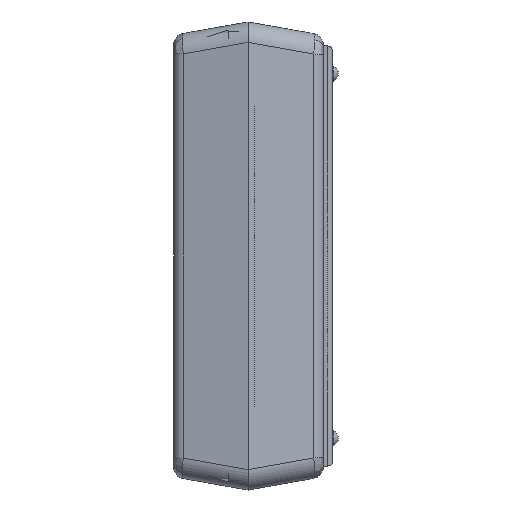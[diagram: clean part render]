
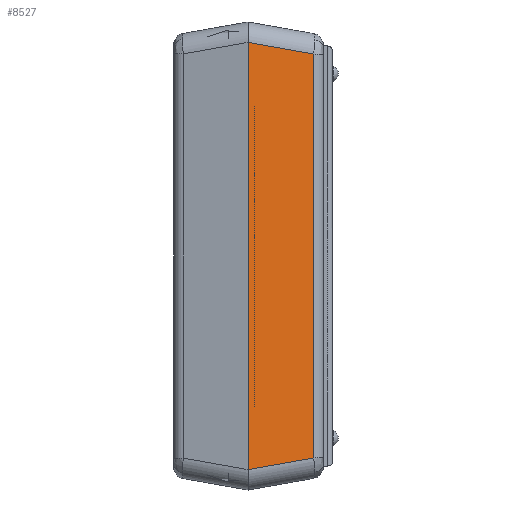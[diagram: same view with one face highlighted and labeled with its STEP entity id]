
A CAD part, left-side view. The second image highlights one B-rep face of the part: STEP entity #8527.
In plain terms, the highlighted planar face has unit normal (-0.985, -0.174, 0).
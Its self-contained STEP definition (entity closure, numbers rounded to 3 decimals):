
#132 = CARTESIAN_POINT ( 'NONE',  ( -95.43, 0.736, 46.398 ) ) ;
#248 = CARTESIAN_POINT ( 'NONE',  ( -95.3, 0., -46.268 ) ) ;
#1074 = CARTESIAN_POINT ( 'NONE',  ( -92.79, -14.234, -43.759 ) ) ;
#1853 = EDGE_LOOP ( 'NONE', ( #17081, #9218, #17680, #17743 ) ) ;
#3348 = EDGE_CURVE ( 'NONE', #15741, #21416, #19477, .T. ) ;
#3543 = FACE_OUTER_BOUND ( 'NONE', #1853, .T. ) ;
#5240 = PLANE ( 'NONE',  #9140 ) ;
#5308 = DIRECTION ( 'NONE',  ( 0.174, -0.985, 0. ) ) ;
#5566 = CARTESIAN_POINT ( 'NONE',  ( -92.462, -16.097, -43.43 ) ) ;
#6515 = VECTOR ( 'NONE', #10489, 1000. ) ;
#7060 = LINE ( 'NONE', #132, #6515 ) ;
#7211 = VECTOR ( 'NONE', #14164, 1000. ) ;
#8527 = ADVANCED_FACE ( 'NONE', ( #3543 ), #5240, .T. ) ;
#8567 = EDGE_CURVE ( 'NONE', #14717, #21416, #7060, .T. ) ;
#9140 = AXIS2_PLACEMENT_3D ( 'NONE', #12162, #15626, #5308 ) ;
#9143 = VECTOR ( 'NONE', #18006, 1000. ) ;
#9218 = ORIENTED_EDGE ( 'NONE', *, *, #11018, .T. ) ;
#10489 = DIRECTION ( 'NONE',  ( -0.171, 0.97, 0.171 ) ) ;
#11018 = EDGE_CURVE ( 'NONE', #15741, #19772, #16384, .T. ) ;
#12162 = CARTESIAN_POINT ( 'NONE',  ( -95.3, 0., 50.7 ) ) ;
#12254 = DIRECTION ( 'NONE',  ( 0., 0., 1. ) ) ;
#13163 = CARTESIAN_POINT ( 'NONE',  ( -92.79, -14.234, 43.759 ) ) ;
#13183 = LINE ( 'NONE', #18442, #9143 ) ;
#14164 = DIRECTION ( 'NONE',  ( 0.171, -0.97, 0.171 ) ) ;
#14717 = VERTEX_POINT ( 'NONE', #13163 ) ;
#15626 = DIRECTION ( 'NONE',  ( -0.985, -0.174, 0. ) ) ;
#15741 = VERTEX_POINT ( 'NONE', #248 ) ;
#15938 = EDGE_CURVE ( 'NONE', #19772, #14717, #13183, .T. ) ;
#16384 = LINE ( 'NONE', #5566, #7211 ) ;
#17081 = ORIENTED_EDGE ( 'NONE', *, *, #3348, .F. ) ;
#17458 = CARTESIAN_POINT ( 'NONE',  ( -95.3, 0., 50.7 ) ) ;
#17680 = ORIENTED_EDGE ( 'NONE', *, *, #15938, .T. ) ;
#17743 = ORIENTED_EDGE ( 'NONE', *, *, #8567, .T. ) ;
#18006 = DIRECTION ( 'NONE',  ( 0., 0., 1. ) ) ;
#18442 = CARTESIAN_POINT ( 'NONE',  ( -92.79, -14.234, 47.826 ) ) ;
#18934 = VECTOR ( 'NONE', #12254, 1000. ) ;
#19087 = CARTESIAN_POINT ( 'NONE',  ( -95.3, 0., 46.268 ) ) ;
#19477 = LINE ( 'NONE', #17458, #18934 ) ;
#19772 = VERTEX_POINT ( 'NONE', #1074 ) ;
#21416 = VERTEX_POINT ( 'NONE', #19087 ) ;
